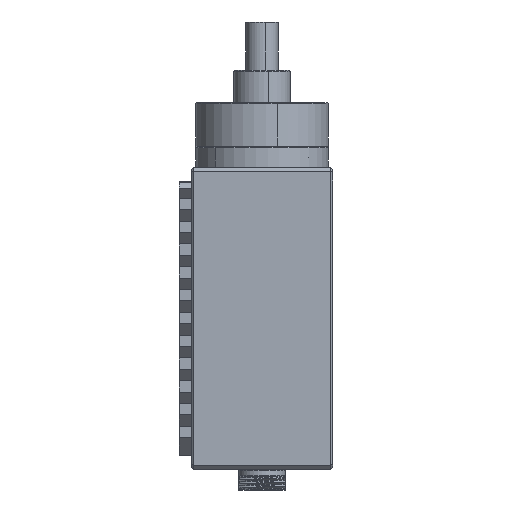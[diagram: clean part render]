
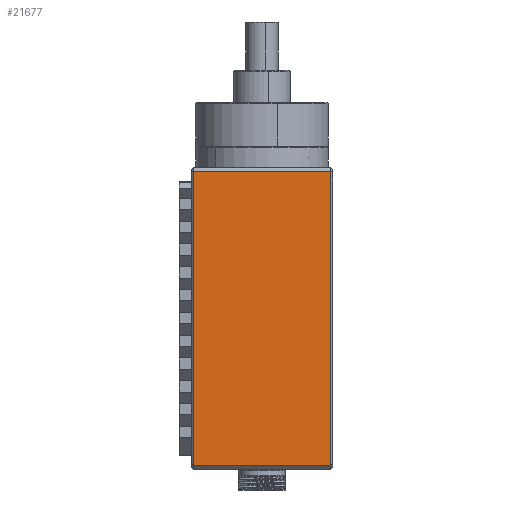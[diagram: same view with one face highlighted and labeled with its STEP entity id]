
A CAD part, left-side view. The second image highlights one B-rep face of the part: STEP entity #21677.
In plain terms, the highlighted planar face has unit normal (-1, 0, 0).
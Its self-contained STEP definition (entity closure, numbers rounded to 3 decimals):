
#663 = CARTESIAN_POINT ( 'NONE',  ( -37.5, 3., -36.5 ) ) ;
#756 = LINE ( 'NONE', #3874, #20536 ) ;
#1846 = VECTOR ( 'NONE', #8403, 1000. ) ;
#3506 = CARTESIAN_POINT ( 'NONE',  ( -37.5, 31.5, -36.5 ) ) ;
#3874 = CARTESIAN_POINT ( 'NONE',  ( -37.5, -2.5, 37.5 ) ) ;
#4974 = DIRECTION ( 'NONE',  ( 0., 1., 0. ) ) ;
#5137 = CARTESIAN_POINT ( 'NONE',  ( -37.5, 3., 37.5 ) ) ;
#6445 = DIRECTION ( 'NONE',  ( 0., 0., 1. ) ) ;
#7884 = EDGE_CURVE ( 'NONE', #14012, #13830, #24945, .T. ) ;
#8403 = DIRECTION ( 'NONE',  ( 0., -1., 0. ) ) ;
#8797 = FACE_OUTER_BOUND ( 'NONE', #16115, .T. ) ;
#8973 = ORIENTED_EDGE ( 'NONE', *, *, #10965, .T. ) ;
#9114 = LINE ( 'NONE', #663, #1846 ) ;
#10172 = VECTOR ( 'NONE', #4974, 1000. ) ;
#10965 = EDGE_CURVE ( 'NONE', #33088, #16105, #756, .T. ) ;
#13691 = CARTESIAN_POINT ( 'NONE',  ( -37.5, -2.5, -36.5 ) ) ;
#13830 = VERTEX_POINT ( 'NONE', #3506 ) ;
#14012 = VERTEX_POINT ( 'NONE', #23827 ) ;
#14398 = ORIENTED_EDGE ( 'NONE', *, *, #7884, .T. ) ;
#15166 = ORIENTED_EDGE ( 'NONE', *, *, #34765, .T. ) ;
#16105 = VERTEX_POINT ( 'NONE', #16981 ) ;
#16115 = EDGE_LOOP ( 'NONE', ( #22466, #14398, #15166, #8973 ) ) ;
#16327 = DIRECTION ( 'NONE',  ( 1., 0., 0. ) ) ;
#16548 = CARTESIAN_POINT ( 'NONE',  ( -37.5, 31.5, 37.5 ) ) ;
#16981 = CARTESIAN_POINT ( 'NONE',  ( -37.5, -2.5, 36.5 ) ) ;
#18730 = LINE ( 'NONE', #30064, #10172 ) ;
#18796 = VECTOR ( 'NONE', #18927, 1000. ) ;
#18927 = DIRECTION ( 'NONE',  ( 0., 0., -1. ) ) ;
#20536 = VECTOR ( 'NONE', #6445, 1000. ) ;
#21677 = ADVANCED_FACE ( 'NONE', ( #8797 ), #30219, .F. ) ;
#22466 = ORIENTED_EDGE ( 'NONE', *, *, #24943, .T. ) ;
#23827 = CARTESIAN_POINT ( 'NONE',  ( -37.5, 31.5, 36.5 ) ) ;
#24943 = EDGE_CURVE ( 'NONE', #16105, #14012, #18730, .T. ) ;
#24945 = LINE ( 'NONE', #16548, #18796 ) ;
#28003 = DIRECTION ( 'NONE',  ( 0., 1., 0. ) ) ;
#30064 = CARTESIAN_POINT ( 'NONE',  ( -37.5, 3., 36.5 ) ) ;
#30219 = PLANE ( 'NONE',  #31699 ) ;
#31699 = AXIS2_PLACEMENT_3D ( 'NONE', #5137, #16327, #28003 ) ;
#33088 = VERTEX_POINT ( 'NONE', #13691 ) ;
#34765 = EDGE_CURVE ( 'NONE', #13830, #33088, #9114, .T. ) ;
